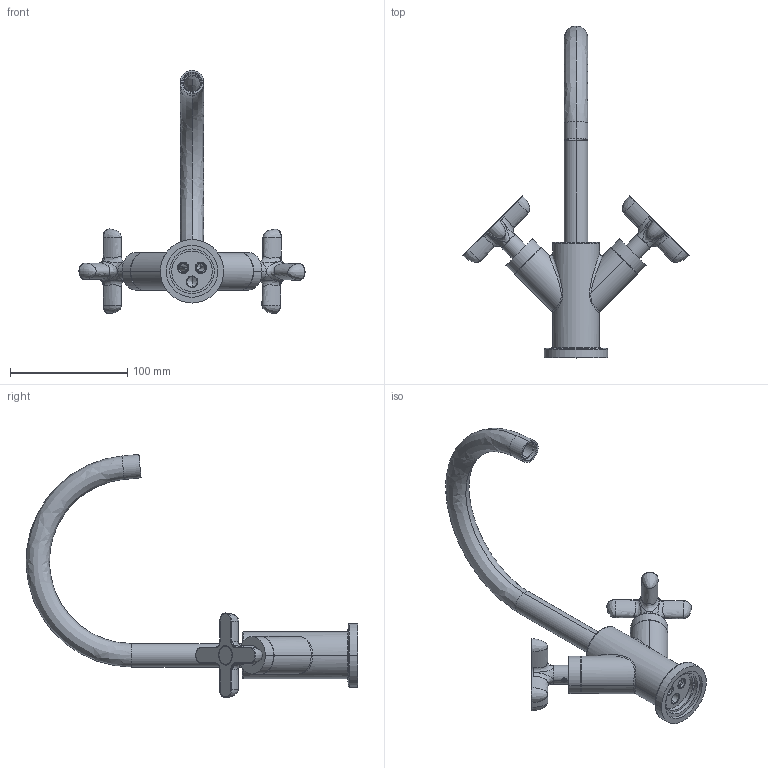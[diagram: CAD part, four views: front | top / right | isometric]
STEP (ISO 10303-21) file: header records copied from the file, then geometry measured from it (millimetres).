
FILE_DESCRIPTION(('STEP AP214'),'2;1');
FILE_NAME('DIS_3D_R056WU.stp','2022-02-18T10:54:57',(''),(''),'2015.2.119','THINKDESIGN','');
FILE_SCHEMA(('AUTOMOTIVE_DESIGN'));
Length unit declared in the file: millimetre
Products named in the file (1): top
Bounding box: 192.42 x 282.4 x 206.95 mm (x, y, z)
Volume: 239782.8 mm3; surface area: 102446.5 mm2
Topology: 14 solids, 14 shells, 691 faces, 1759 edges, 1092 vertices
Faces by surface type: cylinder 268, bspline 239, plane 184
Entity records: 48525 total; most frequent: CARTESIAN_POINT 20566, ORIENTED_EDGE 3454, DIRECTION 2959, EDGE_CURVE 1727, STYLED_ITEM 1396, PRESENTATION_STYLE_ASSIGNMENT 1386, SURFACE_STYLE_USAGE 1386, SURFACE_SIDE_STYLE 1386
